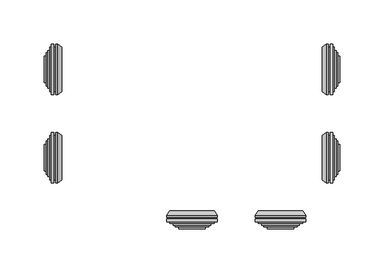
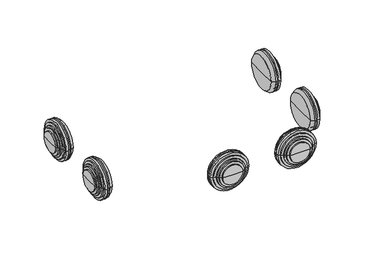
"""IFC4 building model written with IfcOpenShell, lengths in millimetres: cable carrier fitting geometry, КНС_КоробкаОтветвительнаяСКабельнымиВводами_10_IP55_DKC : с 10 кабельными вводами д.40мм, IP55, 300х220х120мм."""

from ifc_helpers import new_model, si_unit, frame, origin, place, context, project, spatial, polyline, circle_curve, source, transform, mapped, element, save
from ifc_brep_helpers import plane_surface, cylinder_surface, revolved_surface, advanced_brep


def cable_carrier_fitting_83356fa3(model_context):
    return source(origin(), model_context, "Body", "AdvancedBrep", [
        advanced_brep(
        [(-154.0, -75.0, 58.0), (-154.0, -25.0, 58.0), (-154.0, -21.5, 58.0), (-154.0, -78.5, 58.0), (-156.0, -75.0, 58.0), (-156.0, -25.0, 58.0), (-156.0, -78.5, 58.0), (-156.0, -21.5, 58.0), (-159.0, -78.5, 58.0), (-159.0, -21.5, 58.0), (-159.0, -75.0, 58.0), (-159.0, -25.0, 58.0), (-161.0, -75.0, 58.0), (-161.0, -25.0, 58.0), (-161.0, -71.25, 58.0), (-161.0, -28.75, 58.0), (-163.0, -71.25, 58.0), (-163.0, -28.75, 58.0), (-163.0, -68.75, 58.0), (-163.0, -31.25, 58.0), (-165.0, -68.75, 58.0), (-165.0, -31.25, 58.0), (-165.0, -65.0, 58.0), (-165.0, -35.0, 58.0), (-167.0, -65.0, 58.0), (-167.0, -35.0, 58.0), (-167.0, -50.0, 58.0), (-147.0, -75.0, 58.0), (-147.0, -25.0, 58.0), (-147.0, -50.0, 58.0), (-151.7491137, -78.5, 58.0), (-151.7491137, -21.5, 58.0)],
        [
            (0, 1, circle_curve(frame((-154.0, -50.0, 58.0), z_axis=(1.0, 0.0, 0.0), x_axis=(0.0, 1.0000000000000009, 0.0)), 25.0)),
            (1, 2),
            (2, 3, circle_curve(frame((-154.0, -50.0, 58.0), z_axis=(-1.0, 0.0, 0.0), x_axis=(0.0, 1.0000000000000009, 0.0)), 28.5)),
            (3, 0),
            (1, 0, circle_curve(frame((-154.0, -50.0, 58.0), z_axis=(1.0, 0.0, 0.0), x_axis=(0.0, 1.0000000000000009, 0.0)), 25.0)),
            (3, 2, circle_curve(frame((-154.0, -50.0, 58.0), z_axis=(-1.0, 0.0, 0.0), x_axis=(0.0, 1.0000000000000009, 0.0)), 28.5)),
            (4, 5, circle_curve(frame((-156.0, -50.0, 58.0), z_axis=(1.0, 0.0, 0.0), x_axis=(0.0, 1.0000000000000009, 0.0)), 25.0)),
            (5, 1),
            (0, 4),
            (5, 4, circle_curve(frame((-156.0, -50.0, 58.0), z_axis=(1.0, 0.0, 0.0), x_axis=(0.0, 1.0000000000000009, 0.0)), 25.0)),
            (6, 7, circle_curve(frame((-156.0, -50.0, 58.0), z_axis=(1.0, 0.0, 0.0), x_axis=(0.0, 1.0000000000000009, 0.0)), 28.5)),
            (7, 5),
            (4, 6),
            (7, 6, circle_curve(frame((-156.0, -50.0, 58.0), z_axis=(1.0, 0.0, 0.0), x_axis=(0.0, 1.0000000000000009, 0.0)), 28.5)),
            (8, 9, circle_curve(frame((-159.0, -50.0, 58.0), z_axis=(1.0, 0.0, 0.0), x_axis=(0.0, 1.0000000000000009, 0.0)), 28.5)),
            (9, 7),
            (6, 8),
            (9, 8, circle_curve(frame((-159.0, -50.0, 58.0), z_axis=(1.0, 0.0, 0.0), x_axis=(0.0, 1.0000000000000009, 0.0)), 28.5)),
            (10, 11, circle_curve(frame((-159.0, -50.0, 58.0), z_axis=(1.0, 0.0, 0.0), x_axis=(0.0, 1.0000000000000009, 0.0)), 25.0)),
            (11, 9),
            (8, 10),
            (11, 10, circle_curve(frame((-159.0, -50.0, 58.0), z_axis=(1.0, 0.0, 0.0), x_axis=(0.0, 1.0000000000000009, 0.0)), 25.0)),
            (12, 13, circle_curve(frame((-161.0, -50.0, 58.0), z_axis=(1.0, 0.0, 0.0), x_axis=(0.0, 1.0000000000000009, 0.0)), 25.0)),
            (13, 11),
            (10, 12),
            (13, 12, circle_curve(frame((-161.0, -50.0, 58.0), z_axis=(1.0, 0.0, 0.0), x_axis=(0.0, 1.0000000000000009, 0.0)), 25.0)),
            (14, 15, circle_curve(frame((-161.0, -50.0, 58.0), z_axis=(1.0, 0.0, 0.0), x_axis=(0.0, 1.0000000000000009, 0.0)), 21.25)),
            (15, 13),
            (12, 14),
            (15, 14, circle_curve(frame((-161.0, -50.0, 58.0), z_axis=(1.0, 0.0, 0.0), x_axis=(0.0, 1.0000000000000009, 0.0)), 21.25)),
            (16, 17, circle_curve(frame((-163.0, -50.0, 58.0), z_axis=(1.0, 0.0, 0.0), x_axis=(0.0, 1.0000000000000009, 0.0)), 21.25)),
            (17, 15),
            (14, 16),
            (17, 16, circle_curve(frame((-163.0, -50.0, 58.0), z_axis=(1.0, 0.0, 0.0), x_axis=(0.0, 1.0000000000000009, 0.0)), 21.25)),
            (18, 19, circle_curve(frame((-163.0, -50.0, 58.0), z_axis=(1.0, 0.0, 0.0), x_axis=(0.0, 1.0000000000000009, 0.0)), 18.75)),
            (19, 17),
            (16, 18),
            (19, 18, circle_curve(frame((-163.0, -50.0, 58.0), z_axis=(1.0, 0.0, 0.0), x_axis=(0.0, 1.0000000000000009, 0.0)), 18.75)),
            (20, 21, circle_curve(frame((-165.0, -50.0, 58.0), z_axis=(1.0, 0.0, 0.0), x_axis=(0.0, 1.0000000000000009, 0.0)), 18.75)),
            (21, 19),
            (18, 20),
            (21, 20, circle_curve(frame((-165.0, -50.0, 58.0), z_axis=(1.0, 0.0, 0.0), x_axis=(0.0, 1.0000000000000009, 0.0)), 18.75)),
            (22, 23, circle_curve(frame((-165.0, -50.0, 58.0), z_axis=(1.0, 0.0, 0.0), x_axis=(0.0, 1.0000000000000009, 0.0)), 15.0)),
            (23, 21),
            (20, 22),
            (23, 22, circle_curve(frame((-165.0, -50.0, 58.0), z_axis=(1.0, 0.0, 0.0), x_axis=(0.0, 1.0000000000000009, 0.0)), 15.0)),
            (24, 25, circle_curve(frame((-167.0, -50.0, 58.0), z_axis=(1.0, 0.0, 0.0), x_axis=(0.0, 1.0000000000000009, 0.0)), 15.0)),
            (25, 23),
            (22, 24),
            (25, 24, circle_curve(frame((-167.0, -50.0, 58.0), z_axis=(1.0, 0.0, 0.0), x_axis=(0.0, 1.0000000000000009, 0.0)), 15.0)),
            (26, 25),
            (24, 26),
            (27, 28, circle_curve(frame((-147.0, -50.0, 58.0), z_axis=(1.0, 0.0, 0.0), x_axis=(0.0, 1.0000000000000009, 0.0)), 25.0)),
            (28, 29),
            (29, 27),
            (28, 27, circle_curve(frame((-147.0, -50.0, 58.0), z_axis=(1.0, 0.0, 0.0), x_axis=(0.0, 1.0000000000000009, 0.0)), 25.0)),
            (30, 31, circle_curve(frame((-151.7491137, -50.0, 58.0), z_axis=(1.0, 0.0, 0.0), x_axis=(0.0, 1.0000000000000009, 0.0)), 28.5)),
            (31, 28),
            (27, 30),
            (31, 30, circle_curve(frame((-151.7491137, -50.0, 58.0), z_axis=(1.0, 0.0, 0.0), x_axis=(0.0, 1.0000000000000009, 0.0)), 28.5)),
            (2, 31),
            (30, 3),
        ],
        [
            plane_surface(frame((-154.0, -50.0, 58.0), z_axis=(-1.0, 0.0, 0.0), x_axis=(0.0, 1.0, 0.0))),
            cylinder_surface(frame((1359.0, -50.0, 58.0), z_axis=(-1.0000000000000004, 0.0, 0.0), x_axis=(0.0, 1.0000000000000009, 0.0)), 25.0),
            plane_surface(frame((-156.0, -50.0, 58.0), z_axis=(1.0, 0.0, 0.0), x_axis=(0.0, 1.0, 0.0))),
            cylinder_surface(frame((1359.0, -50.0, 58.0), z_axis=(-1.0000000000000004, 0.0, 0.0), x_axis=(0.0, 1.0000000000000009, 0.0)), 28.5),
            plane_surface(frame((-159.0, -50.0, 58.0), z_axis=(-1.0, 0.0, 0.0), x_axis=(0.0, 1.0, 0.0))),
            plane_surface(frame((-161.0, -50.0, 58.0), z_axis=(-1.0, 0.0, 0.0), x_axis=(0.0, 1.0, 0.0))),
            cylinder_surface(frame((1359.0, -50.0, 58.0), z_axis=(-1.0000000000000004, 0.0, 0.0), x_axis=(0.0, 1.0000000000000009, 0.0)), 21.25),
            plane_surface(frame((-163.0, -50.0, 58.0), z_axis=(-1.0, 0.0, 0.0), x_axis=(0.0, 1.0, 0.0))),
            cylinder_surface(frame((1359.0, -50.0, 58.0), z_axis=(-1.0000000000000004, 0.0, 0.0), x_axis=(0.0, 1.0000000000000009, 0.0)), 18.75),
            plane_surface(frame((-165.0, -50.0, 58.0), z_axis=(-1.0, 0.0, 0.0), x_axis=(0.0, 1.0, 0.0))),
            cylinder_surface(frame((1359.0, -50.0, 58.0), z_axis=(-1.0000000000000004, 0.0, 0.0), x_axis=(0.0, 1.0000000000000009, 0.0)), 15.0),
            plane_surface(frame((-167.0, -50.0, 58.0), z_axis=(-1.0, 0.0, 0.0), x_axis=(0.0, 1.0, 0.0))),
            plane_surface(frame((-147.0, -50.0, 58.0), z_axis=(1.0, 0.0, 0.0), x_axis=(0.0, 1.0, 0.0))),
            revolved_surface(polyline([(-147.0, -25.0, 58.0), (-151.7491137, -21.5, 58.0)]), (1359.0, -50.0, 58.0), (-1.0000000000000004, 0.0, 0.0)),
        ],
        [
            (0, [[1, 2, 3, 4]]),
            (0, [[5, -4, 6, -2]]),
            (1, [[7, 8, -1, 9]]),
            (1, [[10, -9, -5, -8]]),
            (2, [[11, 12, -7, 13]]),
            (2, [[14, -13, -10, -12]]),
            (3, [[15, 16, -11, 17]]),
            (3, [[18, -17, -14, -16]]),
            (4, [[19, 20, -15, 21]]),
            (4, [[22, -21, -18, -20]]),
            (1, [[23, 24, -19, 25]]),
            (1, [[26, -25, -22, -24]]),
            (5, [[27, 28, -23, 29]]),
            (5, [[30, -29, -26, -28]]),
            (6, [[31, 32, -27, 33]]),
            (6, [[34, -33, -30, -32]]),
            (7, [[35, 36, -31, 37]]),
            (7, [[38, -37, -34, -36]]),
            (8, [[39, 40, -35, 41]]),
            (8, [[42, -41, -38, -40]]),
            (9, [[43, 44, -39, 45]]),
            (9, [[46, -45, -42, -44]]),
            (10, [[47, 48, -43, 49]]),
            (10, [[50, -49, -46, -48]]),
            (11, [[51, -47, 52]]),
            (11, [[-52, -50, -51]]),
            (12, [[53, 54, 55]]),
            (12, [[56, -55, -54]]),
            (13, [[57, 58, -53, 59]]),
            (13, [[60, -59, -56, -58]]),
            (3, [[-3, 61, -57, 62]]),
            (3, [[-6, -62, -60, -61]]),
        ],
    ),
        advanced_brep(
        [(-154.0, 25.0, 58.0), (-154.0, 75.0, 58.0), (-154.0, 78.5, 58.0), (-154.0, 21.5, 58.0), (-156.0, 25.0, 58.0), (-156.0, 75.0, 58.0), (-156.0, 21.5, 58.0), (-156.0, 78.5, 58.0), (-159.0, 21.5, 58.0), (-159.0, 78.5, 58.0), (-159.0, 25.0, 58.0), (-159.0, 75.0, 58.0), (-161.0, 25.0, 58.0), (-161.0, 75.0, 58.0), (-161.0, 28.75, 58.0), (-161.0, 71.25, 58.0), (-163.0, 28.75, 58.0), (-163.0, 71.25, 58.0), (-163.0, 31.25, 58.0), (-163.0, 68.75, 58.0), (-165.0, 31.25, 58.0), (-165.0, 68.75, 58.0), (-165.0, 35.0, 58.0), (-165.0, 65.0, 58.0), (-167.0, 35.0, 58.0), (-167.0, 65.0, 58.0), (-167.0, 50.0, 58.0), (-147.0, 25.0, 58.0), (-147.0, 75.0, 58.0), (-147.0, 50.0, 58.0), (-151.7491137, 21.5, 58.0), (-151.7491137, 78.5, 58.0)],
        [
            (0, 1, circle_curve(frame((-154.0, 50.0, 58.0), z_axis=(1.0, 0.0, 0.0), x_axis=(0.0, 1.0000000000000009, 0.0)), 25.0)),
            (1, 2),
            (2, 3, circle_curve(frame((-154.0, 50.0, 58.0), z_axis=(-1.0, 0.0, 0.0), x_axis=(0.0, 1.0000000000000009, 0.0)), 28.5)),
            (3, 0),
            (1, 0, circle_curve(frame((-154.0, 50.0, 58.0), z_axis=(1.0, 0.0, 0.0), x_axis=(0.0, 1.0000000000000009, 0.0)), 25.0)),
            (3, 2, circle_curve(frame((-154.0, 50.0, 58.0), z_axis=(-1.0, 0.0, 0.0), x_axis=(0.0, 1.0000000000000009, 0.0)), 28.5)),
            (4, 5, circle_curve(frame((-156.0, 50.0, 58.0), z_axis=(1.0, 0.0, 0.0), x_axis=(0.0, 1.0000000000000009, 0.0)), 25.0)),
            (5, 1),
            (0, 4),
            (5, 4, circle_curve(frame((-156.0, 50.0, 58.0), z_axis=(1.0, 0.0, 0.0), x_axis=(0.0, 1.0000000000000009, 0.0)), 25.0)),
            (6, 7, circle_curve(frame((-156.0, 50.0, 58.0), z_axis=(1.0, 0.0, 0.0), x_axis=(0.0, 1.0000000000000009, 0.0)), 28.5)),
            (7, 5),
            (4, 6),
            (7, 6, circle_curve(frame((-156.0, 50.0, 58.0), z_axis=(1.0, 0.0, 0.0), x_axis=(0.0, 1.0000000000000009, 0.0)), 28.5)),
            (8, 9, circle_curve(frame((-159.0, 50.0, 58.0), z_axis=(1.0, 0.0, 0.0), x_axis=(0.0, 1.0000000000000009, 0.0)), 28.5)),
            (9, 7),
            (6, 8),
            (9, 8, circle_curve(frame((-159.0, 50.0, 58.0), z_axis=(1.0, 0.0, 0.0), x_axis=(0.0, 1.0000000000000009, 0.0)), 28.5)),
            (10, 11, circle_curve(frame((-159.0, 50.0, 58.0), z_axis=(1.0, 0.0, 0.0), x_axis=(0.0, 1.0000000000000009, 0.0)), 25.0)),
            (11, 9),
            (8, 10),
            (11, 10, circle_curve(frame((-159.0, 50.0, 58.0), z_axis=(1.0, 0.0, 0.0), x_axis=(0.0, 1.0000000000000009, 0.0)), 25.0)),
            (12, 13, circle_curve(frame((-161.0, 50.0, 58.0), z_axis=(1.0, 0.0, 0.0), x_axis=(0.0, 1.0000000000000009, 0.0)), 25.0)),
            (13, 11),
            (10, 12),
            (13, 12, circle_curve(frame((-161.0, 50.0, 58.0), z_axis=(1.0, 0.0, 0.0), x_axis=(0.0, 1.0000000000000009, 0.0)), 25.0)),
            (14, 15, circle_curve(frame((-161.0, 50.0, 58.0), z_axis=(1.0, 0.0, 0.0), x_axis=(0.0, 1.0000000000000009, 0.0)), 21.25)),
            (15, 13),
            (12, 14),
            (15, 14, circle_curve(frame((-161.0, 50.0, 58.0), z_axis=(1.0, 0.0, 0.0), x_axis=(0.0, 1.0000000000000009, 0.0)), 21.25)),
            (16, 17, circle_curve(frame((-163.0, 50.0, 58.0), z_axis=(1.0, 0.0, 0.0), x_axis=(0.0, 1.0000000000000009, 0.0)), 21.25)),
            (17, 15),
            (14, 16),
            (17, 16, circle_curve(frame((-163.0, 50.0, 58.0), z_axis=(1.0, 0.0, 0.0), x_axis=(0.0, 1.0000000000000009, 0.0)), 21.25)),
            (18, 19, circle_curve(frame((-163.0, 50.0, 58.0), z_axis=(1.0, 0.0, 0.0), x_axis=(0.0, 1.0000000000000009, 0.0)), 18.75)),
            (19, 17),
            (16, 18),
            (19, 18, circle_curve(frame((-163.0, 50.0, 58.0), z_axis=(1.0, 0.0, 0.0), x_axis=(0.0, 1.0000000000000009, 0.0)), 18.75)),
            (20, 21, circle_curve(frame((-165.0, 50.0, 58.0), z_axis=(1.0, 0.0, 0.0), x_axis=(0.0, 1.0000000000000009, 0.0)), 18.75)),
            (21, 19),
            (18, 20),
            (21, 20, circle_curve(frame((-165.0, 50.0, 58.0), z_axis=(1.0, 0.0, 0.0), x_axis=(0.0, 1.0000000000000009, 0.0)), 18.75)),
            (22, 23, circle_curve(frame((-165.0, 50.0, 58.0), z_axis=(1.0, 0.0, 0.0), x_axis=(0.0, 1.0000000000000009, 0.0)), 15.0)),
            (23, 21),
            (20, 22),
            (23, 22, circle_curve(frame((-165.0, 50.0, 58.0), z_axis=(1.0, 0.0, 0.0), x_axis=(0.0, 1.0000000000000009, 0.0)), 15.0)),
            (24, 25, circle_curve(frame((-167.0, 50.0, 58.0), z_axis=(1.0, 0.0, 0.0), x_axis=(0.0, 1.0000000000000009, 0.0)), 15.0)),
            (25, 23),
            (22, 24),
            (25, 24, circle_curve(frame((-167.0, 50.0, 58.0), z_axis=(1.0, 0.0, 0.0), x_axis=(0.0, 1.0000000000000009, 0.0)), 15.0)),
            (26, 25),
            (24, 26),
            (27, 28, circle_curve(frame((-147.0, 50.0, 58.0), z_axis=(1.0, 0.0, 0.0), x_axis=(0.0, 1.0000000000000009, 0.0)), 25.0)),
            (28, 29),
            (29, 27),
            (28, 27, circle_curve(frame((-147.0, 50.0, 58.0), z_axis=(1.0, 0.0, 0.0), x_axis=(0.0, 1.0000000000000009, 0.0)), 25.0)),
            (30, 31, circle_curve(frame((-151.7491137, 50.0, 58.0), z_axis=(1.0, 0.0, 0.0), x_axis=(0.0, 1.0000000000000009, 0.0)), 28.5)),
            (31, 28),
            (27, 30),
            (31, 30, circle_curve(frame((-151.7491137, 50.0, 58.0), z_axis=(1.0, 0.0, 0.0), x_axis=(0.0, 1.0000000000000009, 0.0)), 28.5)),
            (2, 31),
            (30, 3),
        ],
        [
            plane_surface(frame((-154.0, 50.0, 58.0), z_axis=(-1.0, 0.0, 0.0), x_axis=(0.0, 1.0, 0.0))),
            cylinder_surface(frame((1359.0, 50.0, 58.0), z_axis=(-1.0000000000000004, 0.0, 0.0), x_axis=(0.0, 1.0000000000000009, 0.0)), 25.0),
            plane_surface(frame((-156.0, 50.0, 58.0), z_axis=(1.0, 0.0, 0.0), x_axis=(0.0, 1.0, 0.0))),
            cylinder_surface(frame((1359.0, 50.0, 58.0), z_axis=(-1.0000000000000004, 0.0, 0.0), x_axis=(0.0, 1.0000000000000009, 0.0)), 28.5),
            plane_surface(frame((-159.0, 50.0, 58.0), z_axis=(-1.0, 0.0, 0.0), x_axis=(0.0, 1.0, 0.0))),
            plane_surface(frame((-161.0, 50.0, 58.0), z_axis=(-1.0, 0.0, 0.0), x_axis=(0.0, 1.0, 0.0))),
            cylinder_surface(frame((1359.0, 50.0, 58.0), z_axis=(-1.0000000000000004, 0.0, 0.0), x_axis=(0.0, 1.0000000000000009, 0.0)), 21.25),
            plane_surface(frame((-163.0, 50.0, 58.0), z_axis=(-1.0, 0.0, 0.0), x_axis=(0.0, 1.0, 0.0))),
            cylinder_surface(frame((1359.0, 50.0, 58.0), z_axis=(-1.0000000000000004, 0.0, 0.0), x_axis=(0.0, 1.0000000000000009, 0.0)), 18.75),
            plane_surface(frame((-165.0, 50.0, 58.0), z_axis=(-1.0, 0.0, 0.0), x_axis=(0.0, 1.0, 0.0))),
            cylinder_surface(frame((1359.0, 50.0, 58.0), z_axis=(-1.0000000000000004, 0.0, 0.0), x_axis=(0.0, 1.0000000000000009, 0.0)), 15.0),
            plane_surface(frame((-167.0, 50.0, 58.0), z_axis=(-1.0, 0.0, 0.0), x_axis=(0.0, 1.0, 0.0))),
            plane_surface(frame((-147.0, 50.0, 58.0), z_axis=(1.0, 0.0, 0.0), x_axis=(0.0, 1.0, 0.0))),
            revolved_surface(polyline([(-147.0, 75.0, 58.0), (-151.7491137, 78.5, 58.0)]), (1359.0, 50.0, 58.0), (-1.0000000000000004, 0.0, 0.0)),
        ],
        [
            (0, [[1, 2, 3, 4]]),
            (0, [[5, -4, 6, -2]]),
            (1, [[7, 8, -1, 9]]),
            (1, [[10, -9, -5, -8]]),
            (2, [[11, 12, -7, 13]]),
            (2, [[14, -13, -10, -12]]),
            (3, [[15, 16, -11, 17]]),
            (3, [[18, -17, -14, -16]]),
            (4, [[19, 20, -15, 21]]),
            (4, [[22, -21, -18, -20]]),
            (1, [[23, 24, -19, 25]]),
            (1, [[26, -25, -22, -24]]),
            (5, [[27, 28, -23, 29]]),
            (5, [[30, -29, -26, -28]]),
            (6, [[31, 32, -27, 33]]),
            (6, [[34, -33, -30, -32]]),
            (7, [[35, 36, -31, 37]]),
            (7, [[38, -37, -34, -36]]),
            (8, [[39, 40, -35, 41]]),
            (8, [[42, -41, -38, -40]]),
            (9, [[43, 44, -39, 45]]),
            (9, [[46, -45, -42, -44]]),
            (10, [[47, 48, -43, 49]]),
            (10, [[50, -49, -46, -48]]),
            (11, [[51, -47, 52]]),
            (11, [[-52, -50, -51]]),
            (12, [[53, 54, 55]]),
            (12, [[56, -55, -54]]),
            (13, [[57, 58, -53, 59]]),
            (13, [[60, -59, -56, -58]]),
            (3, [[-3, 61, -57, 62]]),
            (3, [[-6, -62, -60, -61]]),
        ],
    ),
        advanced_brep(
        [(154.0, 75.0, 58.0), (154.0, 25.0, 58.0), (154.0, 21.5, 58.0), (154.0, 78.5, 58.0), (156.0, 75.0, 58.0), (156.0, 25.0, 58.0), (156.0, 78.5, 58.0), (156.0, 21.5, 58.0), (159.0, 78.5, 58.0), (159.0, 21.5, 58.0), (159.0, 75.0, 58.0), (159.0, 25.0, 58.0), (161.0, 75.0, 58.0), (161.0, 25.0, 58.0), (161.0, 71.25, 58.0), (161.0, 28.75, 58.0), (163.0, 71.25, 58.0), (163.0, 28.75, 58.0), (163.0, 68.75, 58.0), (163.0, 31.25, 58.0), (165.0, 68.75, 58.0), (165.0, 31.25, 58.0), (165.0, 65.0, 58.0), (165.0, 35.0, 58.0), (167.0, 65.0, 58.0), (167.0, 35.0, 58.0), (167.0, 50.0, 58.0), (147.0, 75.0, 58.0), (147.0, 25.0, 58.0), (147.0, 50.0, 58.0), (151.7491137, 78.5, 58.0), (151.7491137, 21.5, 58.0)],
        [
            (0, 1, circle_curve(frame((154.0, 50.0, 58.0), z_axis=(-1.0, 0.0, 0.0), x_axis=(0.0, -1.0, 0.0)), 25.0)),
            (1, 2),
            (2, 3, circle_curve(frame((154.0, 50.0, 58.0), z_axis=(1.0, 0.0, 0.0), x_axis=(0.0, -1.0, 0.0)), 28.5)),
            (3, 0),
            (1, 0, circle_curve(frame((154.0, 50.0, 58.0), z_axis=(-1.0, 0.0, 0.0), x_axis=(0.0, -1.0, 0.0)), 25.0)),
            (3, 2, circle_curve(frame((154.0, 50.0, 58.0), z_axis=(1.0, 0.0, 0.0), x_axis=(0.0, -1.0, 0.0)), 28.5)),
            (4, 5, circle_curve(frame((156.0, 50.0, 58.0), z_axis=(-1.0, 0.0, 0.0), x_axis=(0.0, -1.0, 0.0)), 25.0)),
            (5, 1),
            (0, 4),
            (5, 4, circle_curve(frame((156.0, 50.0, 58.0), z_axis=(-1.0, 0.0, 0.0), x_axis=(0.0, -1.0, 0.0)), 25.0)),
            (6, 7, circle_curve(frame((156.0, 50.0, 58.0), z_axis=(-1.0, 0.0, 0.0), x_axis=(0.0, -1.0, 0.0)), 28.5)),
            (7, 5),
            (4, 6),
            (7, 6, circle_curve(frame((156.0, 50.0, 58.0), z_axis=(-1.0, 0.0, 0.0), x_axis=(0.0, -1.0, 0.0)), 28.5)),
            (8, 9, circle_curve(frame((159.0, 50.0, 58.0), z_axis=(-1.0, 0.0, 0.0), x_axis=(0.0, -1.0, 0.0)), 28.5)),
            (9, 7),
            (6, 8),
            (9, 8, circle_curve(frame((159.0, 50.0, 58.0), z_axis=(-1.0, 0.0, 0.0), x_axis=(0.0, -1.0, 0.0)), 28.5)),
            (10, 11, circle_curve(frame((159.0, 50.0, 58.0), z_axis=(-1.0, 0.0, 0.0), x_axis=(0.0, -1.0, 0.0)), 25.0)),
            (11, 9),
            (8, 10),
            (11, 10, circle_curve(frame((159.0, 50.0, 58.0), z_axis=(-1.0, 0.0, 0.0), x_axis=(0.0, -1.0, 0.0)), 25.0)),
            (12, 13, circle_curve(frame((161.0, 50.0, 58.0), z_axis=(-1.0, 0.0, 0.0), x_axis=(0.0, -1.0, 0.0)), 25.0)),
            (13, 11),
            (10, 12),
            (13, 12, circle_curve(frame((161.0, 50.0, 58.0), z_axis=(-1.0, 0.0, 0.0), x_axis=(0.0, -1.0, 0.0)), 25.0)),
            (14, 15, circle_curve(frame((161.0, 50.0, 58.0), z_axis=(-1.0, 0.0, 0.0), x_axis=(0.0, -1.0, 0.0)), 21.25)),
            (15, 13),
            (12, 14),
            (15, 14, circle_curve(frame((161.0, 50.0, 58.0), z_axis=(-1.0, 0.0, 0.0), x_axis=(0.0, -1.0, 0.0)), 21.25)),
            (16, 17, circle_curve(frame((163.0, 50.0, 58.0), z_axis=(-1.0, 0.0, 0.0), x_axis=(0.0, -1.0, 0.0)), 21.25)),
            (17, 15),
            (14, 16),
            (17, 16, circle_curve(frame((163.0, 50.0, 58.0), z_axis=(-1.0, 0.0, 0.0), x_axis=(0.0, -1.0, 0.0)), 21.25)),
            (18, 19, circle_curve(frame((163.0, 50.0, 58.0), z_axis=(-1.0, 0.0, 0.0), x_axis=(0.0, -1.0, 0.0)), 18.75)),
            (19, 17),
            (16, 18),
            (19, 18, circle_curve(frame((163.0, 50.0, 58.0), z_axis=(-1.0, 0.0, 0.0), x_axis=(0.0, -1.0, 0.0)), 18.75)),
            (20, 21, circle_curve(frame((165.0, 50.0, 58.0), z_axis=(-1.0, 0.0, 0.0), x_axis=(0.0, -1.0, 0.0)), 18.75)),
            (21, 19),
            (18, 20),
            (21, 20, circle_curve(frame((165.0, 50.0, 58.0), z_axis=(-1.0, 0.0, 0.0), x_axis=(0.0, -1.0, 0.0)), 18.75)),
            (22, 23, circle_curve(frame((165.0, 50.0, 58.0), z_axis=(-1.0, 0.0, 0.0), x_axis=(0.0, -1.0, 0.0)), 15.0)),
            (23, 21),
            (20, 22),
            (23, 22, circle_curve(frame((165.0, 50.0, 58.0), z_axis=(-1.0, 0.0, 0.0), x_axis=(0.0, -1.0, 0.0)), 15.0)),
            (24, 25, circle_curve(frame((167.0, 50.0, 58.0), z_axis=(-1.0, 0.0, 0.0), x_axis=(0.0, -1.0, 0.0)), 15.0)),
            (25, 23),
            (22, 24),
            (25, 24, circle_curve(frame((167.0, 50.0, 58.0), z_axis=(-1.0, 0.0, 0.0), x_axis=(0.0, -1.0, 0.0)), 15.0)),
            (26, 25),
            (24, 26),
            (27, 28, circle_curve(frame((147.0, 50.0, 58.0), z_axis=(-1.0, 0.0, 0.0), x_axis=(0.0, -1.0, 0.0)), 25.0)),
            (28, 29),
            (29, 27),
            (28, 27, circle_curve(frame((147.0, 50.0, 58.0), z_axis=(-1.0, 0.0, 0.0), x_axis=(0.0, -1.0, 0.0)), 25.0)),
            (30, 31, circle_curve(frame((151.7491137, 50.0, 58.0), z_axis=(-1.0, 0.0, 0.0), x_axis=(0.0, -1.0, 0.0)), 28.5)),
            (31, 28),
            (27, 30),
            (31, 30, circle_curve(frame((151.7491137, 50.0, 58.0), z_axis=(-1.0, 0.0, 0.0), x_axis=(0.0, -1.0, 0.0)), 28.5)),
            (2, 31),
            (30, 3),
        ],
        [
            plane_surface(frame((154.0, 50.0, 58.0), z_axis=(1.0, 0.0, 0.0), x_axis=(0.0, -1.0, 0.0))),
            cylinder_surface(frame((-1359.0, 50.0, 58.0), z_axis=(1.0, 0.0, 0.0), x_axis=(0.0, -1.0, 0.0)), 25.0),
            plane_surface(frame((156.0, 50.0, 58.0), z_axis=(-1.0, 0.0, 0.0), x_axis=(0.0, -1.0, 0.0))),
            cylinder_surface(frame((-1359.0, 50.0, 58.0), z_axis=(1.0, 0.0, 0.0), x_axis=(0.0, -1.0, 0.0)), 28.5),
            plane_surface(frame((159.0, 50.0, 58.0), z_axis=(1.0, 0.0, 0.0), x_axis=(0.0, -1.0, 0.0))),
            plane_surface(frame((161.0, 50.0, 58.0), z_axis=(1.0, 0.0, 0.0), x_axis=(0.0, -1.0, 0.0))),
            cylinder_surface(frame((-1359.0, 50.0, 58.0), z_axis=(1.0, 0.0, 0.0), x_axis=(0.0, -1.0, 0.0)), 21.25),
            plane_surface(frame((163.0, 50.0, 58.0), z_axis=(1.0, 0.0, 0.0), x_axis=(0.0, -1.0, 0.0))),
            cylinder_surface(frame((-1359.0, 50.0, 58.0), z_axis=(1.0, 0.0, 0.0), x_axis=(0.0, -1.0, 0.0)), 18.75),
            plane_surface(frame((165.0, 50.0, 58.0), z_axis=(1.0, 0.0, 0.0), x_axis=(0.0, -1.0, 0.0))),
            cylinder_surface(frame((-1359.0, 50.0, 58.0), z_axis=(1.0, 0.0, 0.0), x_axis=(0.0, -1.0, 0.0)), 15.0),
            plane_surface(frame((167.0, 50.0, 58.0), z_axis=(1.0, 0.0, 0.0), x_axis=(0.0, -1.0, 0.0))),
            plane_surface(frame((147.0, 50.0, 58.0), z_axis=(-1.0, 0.0, 0.0), x_axis=(0.0, -1.0, 0.0))),
            revolved_surface(polyline([(147.0, 25.0, 58.0), (151.7491137, 21.5, 58.0)]), (-1359.0, 50.0, 58.0), (1.0, 0.0, 0.0)),
        ],
        [
            (0, [[1, 2, 3, 4]]),
            (0, [[5, -4, 6, -2]]),
            (1, [[7, 8, -1, 9]]),
            (1, [[10, -9, -5, -8]]),
            (2, [[11, 12, -7, 13]]),
            (2, [[14, -13, -10, -12]]),
            (3, [[15, 16, -11, 17]]),
            (3, [[18, -17, -14, -16]]),
            (4, [[19, 20, -15, 21]]),
            (4, [[22, -21, -18, -20]]),
            (1, [[23, 24, -19, 25]]),
            (1, [[26, -25, -22, -24]]),
            (5, [[27, 28, -23, 29]]),
            (5, [[30, -29, -26, -28]]),
            (6, [[31, 32, -27, 33]]),
            (6, [[34, -33, -30, -32]]),
            (7, [[35, 36, -31, 37]]),
            (7, [[38, -37, -34, -36]]),
            (8, [[39, 40, -35, 41]]),
            (8, [[42, -41, -38, -40]]),
            (9, [[43, 44, -39, 45]]),
            (9, [[46, -45, -42, -44]]),
            (10, [[47, 48, -43, 49]]),
            (10, [[50, -49, -46, -48]]),
            (11, [[51, -47, 52]]),
            (11, [[-52, -50, -51]]),
            (12, [[53, 54, 55]]),
            (12, [[56, -55, -54]]),
            (13, [[57, 58, -53, 59]]),
            (13, [[60, -59, -56, -58]]),
            (3, [[-3, 61, -57, 62]]),
            (3, [[-6, -62, -60, -61]]),
        ],
    ),
        advanced_brep(
        [(154.0, -25.0, 58.0), (154.0, -75.0, 58.0), (154.0, -78.5, 58.0), (154.0, -21.5, 58.0), (156.0, -25.0, 58.0), (156.0, -75.0, 58.0), (156.0, -21.5, 58.0), (156.0, -78.5, 58.0), (159.0, -21.5, 58.0), (159.0, -78.5, 58.0), (159.0, -25.0, 58.0), (159.0, -75.0, 58.0), (161.0, -25.0, 58.0), (161.0, -75.0, 58.0), (161.0, -28.75, 58.0), (161.0, -71.25, 58.0), (163.0, -28.75, 58.0), (163.0, -71.25, 58.0), (163.0, -31.25, 58.0), (163.0, -68.75, 58.0), (165.0, -31.25, 58.0), (165.0, -68.75, 58.0), (165.0, -35.0, 58.0), (165.0, -65.0, 58.0), (167.0, -35.0, 58.0), (167.0, -65.0, 58.0), (167.0, -50.0, 58.0), (147.0, -25.0, 58.0), (147.0, -75.0, 58.0), (147.0, -50.0, 58.0), (151.7491137, -21.5, 58.0), (151.7491137, -78.5, 58.0)],
        [
            (0, 1, circle_curve(frame((154.0, -50.0, 58.0), z_axis=(-1.0, 0.0, 0.0), x_axis=(0.0, -1.0000000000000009, 0.0)), 25.0)),
            (1, 2),
            (2, 3, circle_curve(frame((154.0, -50.0, 58.0), z_axis=(1.0, 0.0, 0.0), x_axis=(0.0, -1.0000000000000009, 0.0)), 28.5)),
            (3, 0),
            (1, 0, circle_curve(frame((154.0, -50.0, 58.0), z_axis=(-1.0, 0.0, 0.0), x_axis=(0.0, -1.0000000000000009, 0.0)), 25.0)),
            (3, 2, circle_curve(frame((154.0, -50.0, 58.0), z_axis=(1.0, 0.0, 0.0), x_axis=(0.0, -1.0000000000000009, 0.0)), 28.5)),
            (4, 5, circle_curve(frame((156.0, -50.0, 58.0), z_axis=(-1.0, 0.0, 0.0), x_axis=(0.0, -1.0000000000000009, 0.0)), 25.0)),
            (5, 1),
            (0, 4),
            (5, 4, circle_curve(frame((156.0, -50.0, 58.0), z_axis=(-1.0, 0.0, 0.0), x_axis=(0.0, -1.0000000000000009, 0.0)), 25.0)),
            (6, 7, circle_curve(frame((156.0, -50.0, 58.0), z_axis=(-1.0, 0.0, 0.0), x_axis=(0.0, -1.0000000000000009, 0.0)), 28.5)),
            (7, 5),
            (4, 6),
            (7, 6, circle_curve(frame((156.0, -50.0, 58.0), z_axis=(-1.0, 0.0, 0.0), x_axis=(0.0, -1.0000000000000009, 0.0)), 28.5)),
            (8, 9, circle_curve(frame((159.0, -50.0, 58.0), z_axis=(-1.0, 0.0, 0.0), x_axis=(0.0, -1.0000000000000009, 0.0)), 28.5)),
            (9, 7),
            (6, 8),
            (9, 8, circle_curve(frame((159.0, -50.0, 58.0), z_axis=(-1.0, 0.0, 0.0), x_axis=(0.0, -1.0000000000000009, 0.0)), 28.5)),
            (10, 11, circle_curve(frame((159.0, -50.0, 58.0), z_axis=(-1.0, 0.0, 0.0), x_axis=(0.0, -1.0000000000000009, 0.0)), 25.0)),
            (11, 9),
            (8, 10),
            (11, 10, circle_curve(frame((159.0, -50.0, 58.0), z_axis=(-1.0, 0.0, 0.0), x_axis=(0.0, -1.0000000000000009, 0.0)), 25.0)),
            (12, 13, circle_curve(frame((161.0, -50.0, 58.0), z_axis=(-1.0, 0.0, 0.0), x_axis=(0.0, -1.0000000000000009, 0.0)), 25.0)),
            (13, 11),
            (10, 12),
            (13, 12, circle_curve(frame((161.0, -50.0, 58.0), z_axis=(-1.0, 0.0, 0.0), x_axis=(0.0, -1.0000000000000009, 0.0)), 25.0)),
            (14, 15, circle_curve(frame((161.0, -50.0, 58.0), z_axis=(-1.0, 0.0, 0.0), x_axis=(0.0, -1.0000000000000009, 0.0)), 21.25)),
            (15, 13),
            (12, 14),
            (15, 14, circle_curve(frame((161.0, -50.0, 58.0), z_axis=(-1.0, 0.0, 0.0), x_axis=(0.0, -1.0000000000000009, 0.0)), 21.25)),
            (16, 17, circle_curve(frame((163.0, -50.0, 58.0), z_axis=(-1.0, 0.0, 0.0), x_axis=(0.0, -1.0000000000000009, 0.0)), 21.25)),
            (17, 15),
            (14, 16),
            (17, 16, circle_curve(frame((163.0, -50.0, 58.0), z_axis=(-1.0, 0.0, 0.0), x_axis=(0.0, -1.0000000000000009, 0.0)), 21.25)),
            (18, 19, circle_curve(frame((163.0, -50.0, 58.0), z_axis=(-1.0, 0.0, 0.0), x_axis=(0.0, -1.0000000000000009, 0.0)), 18.75)),
            (19, 17),
            (16, 18),
            (19, 18, circle_curve(frame((163.0, -50.0, 58.0), z_axis=(-1.0, 0.0, 0.0), x_axis=(0.0, -1.0000000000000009, 0.0)), 18.75)),
            (20, 21, circle_curve(frame((165.0, -50.0, 58.0), z_axis=(-1.0, 0.0, 0.0), x_axis=(0.0, -1.0000000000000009, 0.0)), 18.75)),
            (21, 19),
            (18, 20),
            (21, 20, circle_curve(frame((165.0, -50.0, 58.0), z_axis=(-1.0, 0.0, 0.0), x_axis=(0.0, -1.0000000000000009, 0.0)), 18.75)),
            (22, 23, circle_curve(frame((165.0, -50.0, 58.0), z_axis=(-1.0, 0.0, 0.0), x_axis=(0.0, -1.0000000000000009, 0.0)), 15.0)),
            (23, 21),
            (20, 22),
            (23, 22, circle_curve(frame((165.0, -50.0, 58.0), z_axis=(-1.0, 0.0, 0.0), x_axis=(0.0, -1.0000000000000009, 0.0)), 15.0)),
            (24, 25, circle_curve(frame((167.0, -50.0, 58.0), z_axis=(-1.0, 0.0, 0.0), x_axis=(0.0, -1.0000000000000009, 0.0)), 15.0)),
            (25, 23),
            (22, 24),
            (25, 24, circle_curve(frame((167.0, -50.0, 58.0), z_axis=(-1.0, 0.0, 0.0), x_axis=(0.0, -1.0000000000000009, 0.0)), 15.0)),
            (26, 25),
            (24, 26),
            (27, 28, circle_curve(frame((147.0, -50.0, 58.0), z_axis=(-1.0, 0.0, 0.0), x_axis=(0.0, -1.0000000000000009, 0.0)), 25.0)),
            (28, 29),
            (29, 27),
            (28, 27, circle_curve(frame((147.0, -50.0, 58.0), z_axis=(-1.0, 0.0, 0.0), x_axis=(0.0, -1.0000000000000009, 0.0)), 25.0)),
            (30, 31, circle_curve(frame((151.7491137, -50.0, 58.0), z_axis=(-1.0, 0.0, 0.0), x_axis=(0.0, -1.0000000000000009, 0.0)), 28.5)),
            (31, 28),
            (27, 30),
            (31, 30, circle_curve(frame((151.7491137, -50.0, 58.0), z_axis=(-1.0, 0.0, 0.0), x_axis=(0.0, -1.0000000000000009, 0.0)), 28.5)),
            (2, 31),
            (30, 3),
        ],
        [
            plane_surface(frame((154.0, -50.0, 58.0), z_axis=(1.0, 0.0, 0.0), x_axis=(0.0, -1.0, 0.0))),
            cylinder_surface(frame((-1359.0, -50.0, 58.0), z_axis=(1.0000000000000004, 0.0, 0.0), x_axis=(0.0, -1.0000000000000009, 0.0)), 25.0),
            plane_surface(frame((156.0, -50.0, 58.0), z_axis=(-1.0, 0.0, 0.0), x_axis=(0.0, -1.0, 0.0))),
            cylinder_surface(frame((-1359.0, -50.0, 58.0), z_axis=(1.0000000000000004, 0.0, 0.0), x_axis=(0.0, -1.0000000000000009, 0.0)), 28.5),
            plane_surface(frame((159.0, -50.0, 58.0), z_axis=(1.0, 0.0, 0.0), x_axis=(0.0, -1.0, 0.0))),
            plane_surface(frame((161.0, -50.0, 58.0), z_axis=(1.0, 0.0, 0.0), x_axis=(0.0, -1.0, 0.0))),
            cylinder_surface(frame((-1359.0, -50.0, 58.0), z_axis=(1.0000000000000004, 0.0, 0.0), x_axis=(0.0, -1.0000000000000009, 0.0)), 21.25),
            plane_surface(frame((163.0, -50.0, 58.0), z_axis=(1.0, 0.0, 0.0), x_axis=(0.0, -1.0, 0.0))),
            cylinder_surface(frame((-1359.0, -50.0, 58.0), z_axis=(1.0000000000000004, 0.0, 0.0), x_axis=(0.0, -1.0000000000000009, 0.0)), 18.75),
            plane_surface(frame((165.0, -50.0, 58.0), z_axis=(1.0, 0.0, 0.0), x_axis=(0.0, -1.0, 0.0))),
            cylinder_surface(frame((-1359.0, -50.0, 58.0), z_axis=(1.0000000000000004, 0.0, 0.0), x_axis=(0.0, -1.0000000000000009, 0.0)), 15.0),
            plane_surface(frame((167.0, -50.0, 58.0), z_axis=(1.0, 0.0, 0.0), x_axis=(0.0, -1.0, 0.0))),
            plane_surface(frame((147.0, -50.0, 58.0), z_axis=(-1.0, 0.0, 0.0), x_axis=(0.0, -1.0, 0.0))),
            revolved_surface(polyline([(147.0, -75.0, 58.0), (151.7491137, -78.5, 58.0)]), (-1359.0, -50.0, 58.0), (1.0000000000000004, 0.0, 0.0)),
        ],
        [
            (0, [[1, 2, 3, 4]]),
            (0, [[5, -4, 6, -2]]),
            (1, [[7, 8, -1, 9]]),
            (1, [[10, -9, -5, -8]]),
            (2, [[11, 12, -7, 13]]),
            (2, [[14, -13, -10, -12]]),
            (3, [[15, 16, -11, 17]]),
            (3, [[18, -17, -14, -16]]),
            (4, [[19, 20, -15, 21]]),
            (4, [[22, -21, -18, -20]]),
            (1, [[23, 24, -19, 25]]),
            (1, [[26, -25, -22, -24]]),
            (5, [[27, 28, -23, 29]]),
            (5, [[30, -29, -26, -28]]),
            (6, [[31, 32, -27, 33]]),
            (6, [[34, -33, -30, -32]]),
            (7, [[35, 36, -31, 37]]),
            (7, [[38, -37, -34, -36]]),
            (8, [[39, 40, -35, 41]]),
            (8, [[42, -41, -38, -40]]),
            (9, [[43, 44, -39, 45]]),
            (9, [[46, -45, -42, -44]]),
            (10, [[47, 48, -43, 49]]),
            (10, [[50, -49, -46, -48]]),
            (11, [[51, -47, 52]]),
            (11, [[-52, -50, -51]]),
            (12, [[53, 54, 55]]),
            (12, [[56, -55, -54]]),
            (13, [[57, 58, -53, 59]]),
            (13, [[60, -59, -56, -58]]),
            (3, [[-3, 61, -57, 62]]),
            (3, [[-6, -62, -60, -61]]),
        ],
    ),
        advanced_brep(
        [(125.0, -117.5, 58.0), (75.0, -117.5, 58.0), (71.5, -117.5, 58.0), (128.5, -117.5, 58.0), (125.0, -119.5, 58.0), (75.0, -119.5, 58.0), (128.5, -119.5, 58.0), (71.5, -119.5, 58.0), (128.5, -122.5, 58.0), (71.5, -122.5, 58.0), (125.0, -122.5, 58.0), (75.0, -122.5, 58.0), (125.0, -124.5, 58.0), (75.0, -124.5, 58.0), (121.25, -124.5, 58.0), (78.75, -124.5, 58.0), (121.25, -126.5, 58.0), (78.75, -126.5, 58.0), (118.75, -126.5, 58.0), (81.25, -126.5, 58.0), (118.75, -128.5, 58.0), (81.25, -128.5, 58.0), (115.0, -128.5, 58.0), (85.0, -128.5, 58.0), (115.0, -130.5, 58.0), (85.0, -130.5, 58.0), (100.0, -130.5, 58.0), (125.0, -110.5, 58.0), (75.0, -110.5, 58.0), (100.0, -110.5, 58.0), (128.5, -115.2491137, 58.0), (71.5, -115.2491137, 58.0)],
        [
            (0, 1, circle_curve(frame((100.0, -117.5, 58.0), z_axis=(0.0, 1.0, 0.0), x_axis=(-1.0000000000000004, 0.0, 0.0)), 25.0)),
            (1, 2),
            (2, 3, circle_curve(frame((100.0, -117.5, 58.0), z_axis=(0.0, -1.0, 0.0), x_axis=(-1.0000000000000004, 0.0, 0.0)), 28.5)),
            (3, 0),
            (1, 0, circle_curve(frame((100.0, -117.5, 58.0), z_axis=(0.0, 1.0, 0.0), x_axis=(-1.0000000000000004, 0.0, 0.0)), 25.0)),
            (3, 2, circle_curve(frame((100.0, -117.5, 58.0), z_axis=(0.0, -1.0, 0.0), x_axis=(-1.0000000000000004, 0.0, 0.0)), 28.5)),
            (4, 5, circle_curve(frame((100.0, -119.5, 58.0), z_axis=(0.0, 1.0, 0.0), x_axis=(-1.0000000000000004, 0.0, 0.0)), 25.0)),
            (5, 1),
            (0, 4),
            (5, 4, circle_curve(frame((100.0, -119.5, 58.0), z_axis=(0.0, 1.0, 0.0), x_axis=(-1.0000000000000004, 0.0, 0.0)), 25.0)),
            (6, 7, circle_curve(frame((100.0, -119.5, 58.0), z_axis=(0.0, 1.0, 0.0), x_axis=(-1.0000000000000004, 0.0, 0.0)), 28.5)),
            (7, 5),
            (4, 6),
            (7, 6, circle_curve(frame((100.0, -119.5, 58.0), z_axis=(0.0, 1.0, 0.0), x_axis=(-1.0000000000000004, 0.0, 0.0)), 28.5)),
            (8, 9, circle_curve(frame((100.0, -122.5, 58.0), z_axis=(0.0, 1.0, 0.0), x_axis=(-1.0000000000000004, 0.0, 0.0)), 28.5)),
            (9, 7),
            (6, 8),
            (9, 8, circle_curve(frame((100.0, -122.5, 58.0), z_axis=(0.0, 1.0, 0.0), x_axis=(-1.0000000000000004, 0.0, 0.0)), 28.5)),
            (10, 11, circle_curve(frame((100.0, -122.5, 58.0), z_axis=(0.0, 1.0, 0.0), x_axis=(-1.0000000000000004, 0.0, 0.0)), 25.0)),
            (11, 9),
            (8, 10),
            (11, 10, circle_curve(frame((100.0, -122.5, 58.0), z_axis=(0.0, 1.0, 0.0), x_axis=(-1.0000000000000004, 0.0, 0.0)), 25.0)),
            (12, 13, circle_curve(frame((100.0, -124.5, 58.0), z_axis=(0.0, 1.0, 0.0), x_axis=(-1.0000000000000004, 0.0, 0.0)), 25.0)),
            (13, 11),
            (10, 12),
            (13, 12, circle_curve(frame((100.0, -124.5, 58.0), z_axis=(0.0, 1.0, 0.0), x_axis=(-1.0000000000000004, 0.0, 0.0)), 25.0)),
            (14, 15, circle_curve(frame((100.0, -124.5, 58.0), z_axis=(0.0, 1.0, 0.0), x_axis=(-1.0000000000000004, 0.0, 0.0)), 21.25)),
            (15, 13),
            (12, 14),
            (15, 14, circle_curve(frame((100.0, -124.5, 58.0), z_axis=(0.0, 1.0, 0.0), x_axis=(-1.0000000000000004, 0.0, 0.0)), 21.25)),
            (16, 17, circle_curve(frame((100.0, -126.5, 58.0), z_axis=(0.0, 1.0, 0.0), x_axis=(-1.0000000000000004, 0.0, 0.0)), 21.25)),
            (17, 15),
            (14, 16),
            (17, 16, circle_curve(frame((100.0, -126.5, 58.0), z_axis=(0.0, 1.0, 0.0), x_axis=(-1.0000000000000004, 0.0, 0.0)), 21.25)),
            (18, 19, circle_curve(frame((100.0, -126.5, 58.0), z_axis=(0.0, 1.0, 0.0), x_axis=(-1.0000000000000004, 0.0, 0.0)), 18.75)),
            (19, 17),
            (16, 18),
            (19, 18, circle_curve(frame((100.0, -126.5, 58.0), z_axis=(0.0, 1.0, 0.0), x_axis=(-1.0000000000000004, 0.0, 0.0)), 18.75)),
            (20, 21, circle_curve(frame((100.0, -128.5, 58.0), z_axis=(0.0, 1.0, 0.0), x_axis=(-1.0000000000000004, 0.0, 0.0)), 18.75)),
            (21, 19),
            (18, 20),
            (21, 20, circle_curve(frame((100.0, -128.5, 58.0), z_axis=(0.0, 1.0, 0.0), x_axis=(-1.0000000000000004, 0.0, 0.0)), 18.75)),
            (22, 23, circle_curve(frame((100.0, -128.5, 58.0), z_axis=(0.0, 1.0, 0.0), x_axis=(-1.0000000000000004, 0.0, 0.0)), 15.0)),
            (23, 21),
            (20, 22),
            (23, 22, circle_curve(frame((100.0, -128.5, 58.0), z_axis=(0.0, 1.0, 0.0), x_axis=(-1.0000000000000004, 0.0, 0.0)), 15.0)),
            (24, 25, circle_curve(frame((100.0, -130.5, 58.0), z_axis=(0.0, 1.0, 0.0), x_axis=(-1.0000000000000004, 0.0, 0.0)), 15.0)),
            (25, 23),
            (22, 24),
            (25, 24, circle_curve(frame((100.0, -130.5, 58.0), z_axis=(0.0, 1.0, 0.0), x_axis=(-1.0000000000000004, 0.0, 0.0)), 15.0)),
            (26, 25),
            (24, 26),
            (27, 28, circle_curve(frame((100.0, -110.5, 58.0), z_axis=(0.0, 1.0, 0.0), x_axis=(-1.0000000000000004, 0.0, 0.0)), 25.0)),
            (28, 29),
            (29, 27),
            (28, 27, circle_curve(frame((100.0, -110.5, 58.0), z_axis=(0.0, 1.0, 0.0), x_axis=(-1.0000000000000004, 0.0, 0.0)), 25.0)),
            (30, 31, circle_curve(frame((100.0, -115.2491137, 58.0), z_axis=(0.0, 1.0, 0.0), x_axis=(-1.0000000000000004, 0.0, 0.0)), 28.5)),
            (31, 28),
            (27, 30),
            (31, 30, circle_curve(frame((100.0, -115.2491137, 58.0), z_axis=(0.0, 1.0, 0.0), x_axis=(-1.0000000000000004, 0.0, 0.0)), 28.5)),
            (2, 31),
            (30, 3),
        ],
        [
            plane_surface(frame((100.0, -117.5, 58.0), z_axis=(0.0, -1.0, 0.0), x_axis=(-1.0, 0.0, 0.0))),
            cylinder_surface(frame((100.0, 1395.5, 58.0), z_axis=(0.0, -1.0000000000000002, 0.0), x_axis=(-1.0000000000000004, 0.0, 0.0)), 25.0),
            plane_surface(frame((100.0, -119.5, 58.0), z_axis=(0.0, 1.0, 0.0), x_axis=(-1.0, 0.0, 0.0))),
            cylinder_surface(frame((100.0, 1395.5, 58.0), z_axis=(0.0, -1.0000000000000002, 0.0), x_axis=(-1.0000000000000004, 0.0, 0.0)), 28.5),
            plane_surface(frame((100.0, -122.5, 58.0), z_axis=(0.0, -1.0, 0.0), x_axis=(-1.0, 0.0, 0.0))),
            plane_surface(frame((100.0, -124.5, 58.0), z_axis=(0.0, -1.0, 0.0), x_axis=(-1.0, 0.0, 0.0))),
            cylinder_surface(frame((100.0, 1395.5, 58.0), z_axis=(0.0, -1.0000000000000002, 0.0), x_axis=(-1.0000000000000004, 0.0, 0.0)), 21.25),
            plane_surface(frame((100.0, -126.5, 58.0), z_axis=(0.0, -1.0, 0.0), x_axis=(-1.0, 0.0, 0.0))),
            cylinder_surface(frame((100.0, 1395.5, 58.0), z_axis=(0.0, -1.0000000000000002, 0.0), x_axis=(-1.0000000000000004, 0.0, 0.0)), 18.75),
            plane_surface(frame((100.0, -128.5, 58.0), z_axis=(0.0, -1.0, 0.0), x_axis=(-1.0, 0.0, 0.0))),
            cylinder_surface(frame((100.0, 1395.5, 58.0), z_axis=(0.0, -1.0000000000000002, 0.0), x_axis=(-1.0000000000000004, 0.0, 0.0)), 15.0),
            plane_surface(frame((100.0, -130.5, 58.0), z_axis=(0.0, -1.0, 0.0), x_axis=(-1.0, 0.0, 0.0))),
            plane_surface(frame((100.0, -110.5, 58.0), z_axis=(0.0, 1.0, 0.0), x_axis=(-1.0, 0.0, 0.0))),
            revolved_surface(polyline([(75.0, -110.5, 58.0), (71.5, -115.2491137, 58.0)]), (100.0, 1395.5, 58.0), (0.0, -1.0000000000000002, 0.0)),
        ],
        [
            (0, [[1, 2, 3, 4]]),
            (0, [[5, -4, 6, -2]]),
            (1, [[7, 8, -1, 9]]),
            (1, [[10, -9, -5, -8]]),
            (2, [[11, 12, -7, 13]]),
            (2, [[14, -13, -10, -12]]),
            (3, [[15, 16, -11, 17]]),
            (3, [[18, -17, -14, -16]]),
            (4, [[19, 20, -15, 21]]),
            (4, [[22, -21, -18, -20]]),
            (1, [[23, 24, -19, 25]]),
            (1, [[26, -25, -22, -24]]),
            (5, [[27, 28, -23, 29]]),
            (5, [[30, -29, -26, -28]]),
            (6, [[31, 32, -27, 33]]),
            (6, [[34, -33, -30, -32]]),
            (7, [[35, 36, -31, 37]]),
            (7, [[38, -37, -34, -36]]),
            (8, [[39, 40, -35, 41]]),
            (8, [[42, -41, -38, -40]]),
            (9, [[43, 44, -39, 45]]),
            (9, [[46, -45, -42, -44]]),
            (10, [[47, 48, -43, 49]]),
            (10, [[50, -49, -46, -48]]),
            (11, [[51, -47, 52]]),
            (11, [[-52, -50, -51]]),
            (12, [[53, 54, 55]]),
            (12, [[56, -55, -54]]),
            (13, [[57, 58, -53, 59]]),
            (13, [[60, -59, -56, -58]]),
            (3, [[-3, 61, -57, 62]]),
            (3, [[-6, -62, -60, -61]]),
        ],
    ),
        advanced_brep(
        [(25.0, -117.5, 58.0), (-25.0, -117.5, 58.0), (-28.5, -117.5, 58.0), (28.5, -117.5, 58.0), (25.0, -119.5, 58.0), (-25.0, -119.5, 58.0), (28.5, -119.5, 58.0), (-28.5, -119.5, 58.0), (28.5, -122.5, 58.0), (-28.5, -122.5, 58.0), (25.0, -122.5, 58.0), (-25.0, -122.5, 58.0), (25.0, -124.5, 58.0), (-25.0, -124.5, 58.0), (21.25, -124.5, 58.0), (-21.25, -124.5, 58.0), (21.25, -126.5, 58.0), (-21.25, -126.5, 58.0), (18.75, -126.5, 58.0), (-18.75, -126.5, 58.0), (18.75, -128.5, 58.0), (-18.75, -128.5, 58.0), (15.0, -128.5, 58.0), (-15.0, -128.5, 58.0), (15.0, -130.5, 58.0), (-15.0, -130.5, 58.0), (0.0, -130.5, 58.0), (25.0, -110.5, 58.0), (-25.0, -110.5, 58.0), (0.0, -110.5, 58.0), (28.5, -115.2491137, 58.0), (-28.5, -115.2491137, 58.0)],
        [
            (0, 1, circle_curve(frame((0.0, -117.5, 58.0), z_axis=(0.0, 1.0, 0.0), x_axis=(-1.0000000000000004, 0.0, 0.0)), 25.0)),
            (1, 2),
            (2, 3, circle_curve(frame((0.0, -117.5, 58.0), z_axis=(0.0, -1.0, 0.0), x_axis=(-1.0000000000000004, 0.0, 0.0)), 28.5)),
            (3, 0),
            (1, 0, circle_curve(frame((0.0, -117.5, 58.0), z_axis=(0.0, 1.0, 0.0), x_axis=(-1.0000000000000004, 0.0, 0.0)), 25.0)),
            (3, 2, circle_curve(frame((0.0, -117.5, 58.0), z_axis=(0.0, -1.0, 0.0), x_axis=(-1.0000000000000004, 0.0, 0.0)), 28.5)),
            (4, 5, circle_curve(frame((0.0, -119.5, 58.0), z_axis=(0.0, 1.0, 0.0), x_axis=(-1.0000000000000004, 0.0, 0.0)), 25.0)),
            (5, 1),
            (0, 4),
            (5, 4, circle_curve(frame((0.0, -119.5, 58.0), z_axis=(0.0, 1.0, 0.0), x_axis=(-1.0000000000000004, 0.0, 0.0)), 25.0)),
            (6, 7, circle_curve(frame((0.0, -119.5, 58.0), z_axis=(0.0, 1.0, 0.0), x_axis=(-1.0000000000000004, 0.0, 0.0)), 28.5)),
            (7, 5),
            (4, 6),
            (7, 6, circle_curve(frame((0.0, -119.5, 58.0), z_axis=(0.0, 1.0, 0.0), x_axis=(-1.0000000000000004, 0.0, 0.0)), 28.5)),
            (8, 9, circle_curve(frame((0.0, -122.5, 58.0), z_axis=(0.0, 1.0, 0.0), x_axis=(-1.0000000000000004, 0.0, 0.0)), 28.5)),
            (9, 7),
            (6, 8),
            (9, 8, circle_curve(frame((0.0, -122.5, 58.0), z_axis=(0.0, 1.0, 0.0), x_axis=(-1.0000000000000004, 0.0, 0.0)), 28.5)),
            (10, 11, circle_curve(frame((0.0, -122.5, 58.0), z_axis=(0.0, 1.0, 0.0), x_axis=(-1.0000000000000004, 0.0, 0.0)), 25.0)),
            (11, 9),
            (8, 10),
            (11, 10, circle_curve(frame((0.0, -122.5, 58.0), z_axis=(0.0, 1.0, 0.0), x_axis=(-1.0000000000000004, 0.0, 0.0)), 25.0)),
            (12, 13, circle_curve(frame((0.0, -124.5, 58.0), z_axis=(0.0, 1.0, 0.0), x_axis=(-1.0000000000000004, 0.0, 0.0)), 25.0)),
            (13, 11),
            (10, 12),
            (13, 12, circle_curve(frame((0.0, -124.5, 58.0), z_axis=(0.0, 1.0, 0.0), x_axis=(-1.0000000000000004, 0.0, 0.0)), 25.0)),
            (14, 15, circle_curve(frame((0.0, -124.5, 58.0), z_axis=(0.0, 1.0, 0.0), x_axis=(-1.0000000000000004, 0.0, 0.0)), 21.25)),
            (15, 13),
            (12, 14),
            (15, 14, circle_curve(frame((0.0, -124.5, 58.0), z_axis=(0.0, 1.0, 0.0), x_axis=(-1.0000000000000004, 0.0, 0.0)), 21.25)),
            (16, 17, circle_curve(frame((0.0, -126.5, 58.0), z_axis=(0.0, 1.0, 0.0), x_axis=(-1.0000000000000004, 0.0, 0.0)), 21.25)),
            (17, 15),
            (14, 16),
            (17, 16, circle_curve(frame((0.0, -126.5, 58.0), z_axis=(0.0, 1.0, 0.0), x_axis=(-1.0000000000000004, 0.0, 0.0)), 21.25)),
            (18, 19, circle_curve(frame((0.0, -126.5, 58.0), z_axis=(0.0, 1.0, 0.0), x_axis=(-1.0000000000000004, 0.0, 0.0)), 18.75)),
            (19, 17),
            (16, 18),
            (19, 18, circle_curve(frame((0.0, -126.5, 58.0), z_axis=(0.0, 1.0, 0.0), x_axis=(-1.0000000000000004, 0.0, 0.0)), 18.75)),
            (20, 21, circle_curve(frame((0.0, -128.5, 58.0), z_axis=(0.0, 1.0, 0.0), x_axis=(-1.0000000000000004, 0.0, 0.0)), 18.75)),
            (21, 19),
            (18, 20),
            (21, 20, circle_curve(frame((0.0, -128.5, 58.0), z_axis=(0.0, 1.0, 0.0), x_axis=(-1.0000000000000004, 0.0, 0.0)), 18.75)),
            (22, 23, circle_curve(frame((0.0, -128.5, 58.0), z_axis=(0.0, 1.0, 0.0), x_axis=(-1.0000000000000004, 0.0, 0.0)), 15.0)),
            (23, 21),
            (20, 22),
            (23, 22, circle_curve(frame((0.0, -128.5, 58.0), z_axis=(0.0, 1.0, 0.0), x_axis=(-1.0000000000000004, 0.0, 0.0)), 15.0)),
            (24, 25, circle_curve(frame((0.0, -130.5, 58.0), z_axis=(0.0, 1.0, 0.0), x_axis=(-1.0000000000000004, 0.0, 0.0)), 15.0)),
            (25, 23),
            (22, 24),
            (25, 24, circle_curve(frame((0.0, -130.5, 58.0), z_axis=(0.0, 1.0, 0.0), x_axis=(-1.0000000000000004, 0.0, 0.0)), 15.0)),
            (26, 25),
            (24, 26),
            (27, 28, circle_curve(frame((0.0, -110.5, 58.0), z_axis=(0.0, 1.0, 0.0), x_axis=(-1.0000000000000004, 0.0, 0.0)), 25.0)),
            (28, 29),
            (29, 27),
            (28, 27, circle_curve(frame((0.0, -110.5, 58.0), z_axis=(0.0, 1.0, 0.0), x_axis=(-1.0000000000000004, 0.0, 0.0)), 25.0)),
            (30, 31, circle_curve(frame((0.0, -115.2491137, 58.0), z_axis=(0.0, 1.0, 0.0), x_axis=(-1.0000000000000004, 0.0, 0.0)), 28.5)),
            (31, 28),
            (27, 30),
            (31, 30, circle_curve(frame((0.0, -115.2491137, 58.0), z_axis=(0.0, 1.0, 0.0), x_axis=(-1.0000000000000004, 0.0, 0.0)), 28.5)),
            (2, 31),
            (30, 3),
        ],
        [
            plane_surface(frame((0.0, -117.5, 58.0), z_axis=(0.0, -1.0, 0.0), x_axis=(-1.0, 0.0, 0.0))),
            cylinder_surface(frame((0.0, 1395.5, 58.0), z_axis=(0.0, -1.0000000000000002, 0.0), x_axis=(-1.0000000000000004, 0.0, 0.0)), 25.0),
            plane_surface(frame((0.0, -119.5, 58.0), z_axis=(0.0, 1.0, 0.0), x_axis=(-1.0, 0.0, 0.0))),
            cylinder_surface(frame((0.0, 1395.5, 58.0), z_axis=(0.0, -1.0000000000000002, 0.0), x_axis=(-1.0000000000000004, 0.0, 0.0)), 28.5),
            plane_surface(frame((0.0, -122.5, 58.0), z_axis=(0.0, -1.0, 0.0), x_axis=(-1.0, 0.0, 0.0))),
            plane_surface(frame((0.0, -124.5, 58.0), z_axis=(0.0, -1.0, 0.0), x_axis=(-1.0, 0.0, 0.0))),
            cylinder_surface(frame((0.0, 1395.5, 58.0), z_axis=(0.0, -1.0000000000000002, 0.0), x_axis=(-1.0000000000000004, 0.0, 0.0)), 21.25),
            plane_surface(frame((0.0, -126.5, 58.0), z_axis=(0.0, -1.0, 0.0), x_axis=(-1.0, 0.0, 0.0))),
            cylinder_surface(frame((0.0, 1395.5, 58.0), z_axis=(0.0, -1.0000000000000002, 0.0), x_axis=(-1.0000000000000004, 0.0, 0.0)), 18.75),
            plane_surface(frame((0.0, -128.5, 58.0), z_axis=(0.0, -1.0, 0.0), x_axis=(-1.0, 0.0, 0.0))),
            cylinder_surface(frame((0.0, 1395.5, 58.0), z_axis=(0.0, -1.0000000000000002, 0.0), x_axis=(-1.0000000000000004, 0.0, 0.0)), 15.0),
            plane_surface(frame((0.0, -130.5, 58.0), z_axis=(0.0, -1.0, 0.0), x_axis=(-1.0, 0.0, 0.0))),
            plane_surface(frame((0.0, -110.5, 58.0), z_axis=(0.0, 1.0, 0.0), x_axis=(-1.0, 0.0, 0.0))),
            revolved_surface(polyline([(-25.0, -110.5, 58.0), (-28.5, -115.2491137, 58.0)]), (0.0, 1395.5, 58.0), (0.0, -1.0000000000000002, 0.0)),
        ],
        [
            (0, [[1, 2, 3, 4]]),
            (0, [[5, -4, 6, -2]]),
            (1, [[7, 8, -1, 9]]),
            (1, [[10, -9, -5, -8]]),
            (2, [[11, 12, -7, 13]]),
            (2, [[14, -13, -10, -12]]),
            (3, [[15, 16, -11, 17]]),
            (3, [[18, -17, -14, -16]]),
            (4, [[19, 20, -15, 21]]),
            (4, [[22, -21, -18, -20]]),
            (1, [[23, 24, -19, 25]]),
            (1, [[26, -25, -22, -24]]),
            (5, [[27, 28, -23, 29]]),
            (5, [[30, -29, -26, -28]]),
            (6, [[31, 32, -27, 33]]),
            (6, [[34, -33, -30, -32]]),
            (7, [[35, 36, -31, 37]]),
            (7, [[38, -37, -34, -36]]),
            (8, [[39, 40, -35, 41]]),
            (8, [[42, -41, -38, -40]]),
            (9, [[43, 44, -39, 45]]),
            (9, [[46, -45, -42, -44]]),
            (10, [[47, 48, -43, 49]]),
            (10, [[50, -49, -46, -48]]),
            (11, [[51, -47, 52]]),
            (11, [[-52, -50, -51]]),
            (12, [[53, 54, 55]]),
            (12, [[56, -55, -54]]),
            (13, [[57, 58, -53, 59]]),
            (13, [[60, -59, -56, -58]]),
            (3, [[-3, 61, -57, 62]]),
            (3, [[-6, -62, -60, -61]]),
        ],
    ),
    ])


if __name__ == "__main__":
    model = new_model("IFC4")
    model_context = context("Model", 3, world=origin())
    ifc_project = project(units=[si_unit("LENGTHUNIT", "METRE", prefix="MILLI")], contexts=[model_context])
    site = spatial("IfcSite", under=ifc_project)
    building = spatial("IfcBuilding", under=site)
    placement = place(None, origin())
    cable_carrier_fitting_shape = cable_carrier_fitting_83356fa3(model_context)
    element("IfcCableCarrierFitting", 1, ObjectType="КНС_КоробкаОтветвительнаяСКабельнымиВводами_10_IP55_DKC : с 10 кабельными вводами д.40мм, IP55, 300х220х120мм", at=placement, inside=building, context=model_context, shape_type="MappedRepresentation", body=[
        mapped(cable_carrier_fitting_shape, transform((0.0, 0.0, 0.0), x_axis=(1.0, 0.0, 0.0), y_axis=(0.0, 1.0, 0.0), z_axis=(0.0, 0.0, 1.0))),
    ])
    save(model, "model.ifc")
